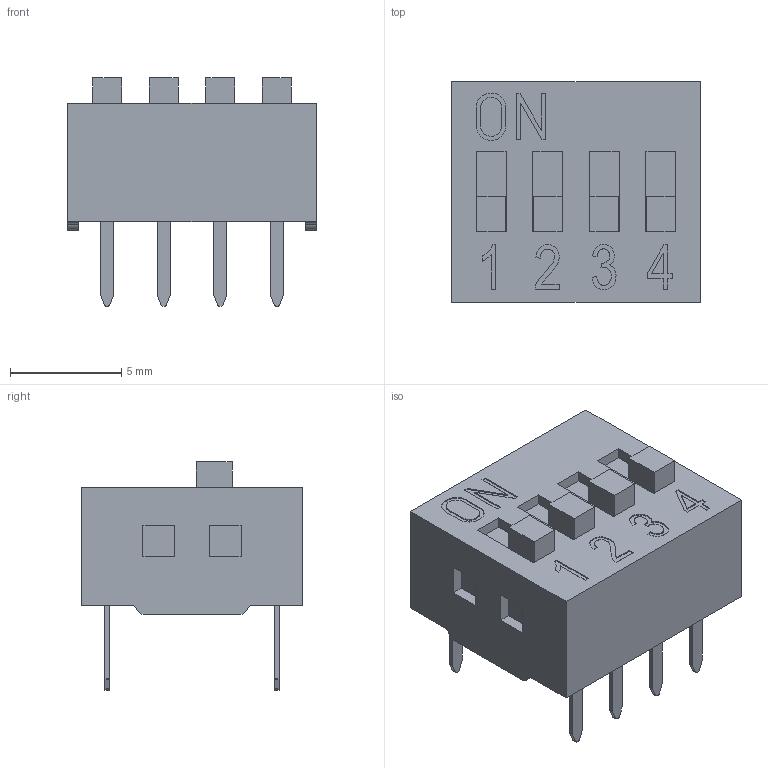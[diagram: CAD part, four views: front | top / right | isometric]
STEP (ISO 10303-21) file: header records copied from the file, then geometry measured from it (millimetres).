
FILE_DESCRIPTION(('FreeCAD Model'),'2;1');
FILE_NAME('C:/Users/Metaltex-99/Desktop/DS-04.stp','2020-08-11T08:44:59' ,('Engenharia Metaltex'),('Metaltex'), 'Open CASCADE STEP processor 7.3','FreeCAD','Unknown');
FILE_SCHEMA(('AUTOMOTIVE_DESIGN { 1 0 10303 214 1 1 1 1 }'));
Length unit declared in the file: millimetre
Products named in the file (1): DS-04
Bounding box: 11.16 x 9.9 x 10.25 mm (x, y, z)
Surface area: 1308 mm2 (no closed solid volume)
Topology: 0 solids, 14 shells, 340 faces, 876 edges, 584 vertices
Faces by surface type: plane 265, cylinder 40, bspline 35
Entity records: 22104 total; most frequent: CARTESIAN_POINT 4666, DIRECTION 3038, LINE 2258, VECTOR 2258, ORIENTED_EDGE 1752, PCURVE 1752, DEFINITIONAL_REPRESENTATION 1752, EDGE_CURVE 876
